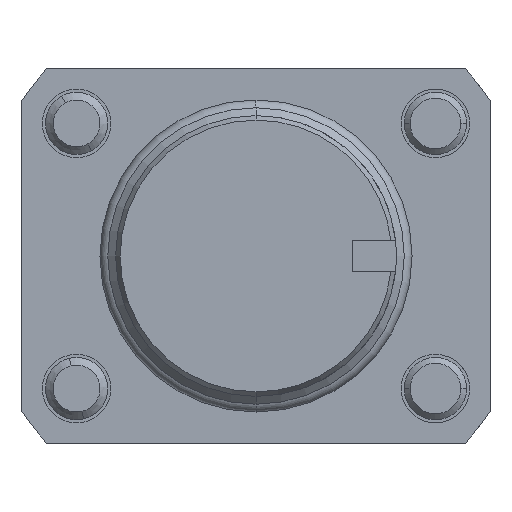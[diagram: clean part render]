
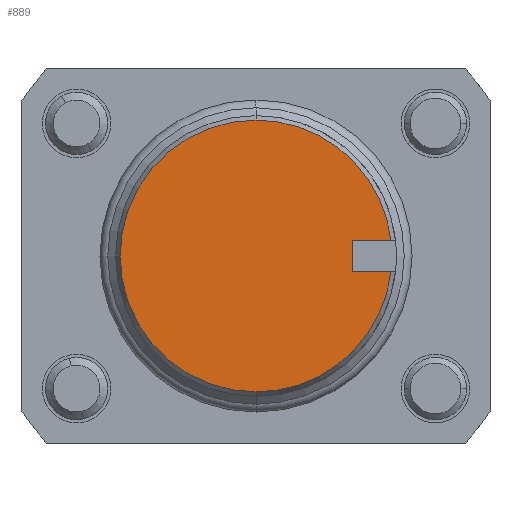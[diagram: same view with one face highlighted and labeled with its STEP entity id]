
A CAD part, front view. The second image highlights one B-rep face of the part: STEP entity #889.
In plain terms, the highlighted planar face has unit normal (0, -1, 0).
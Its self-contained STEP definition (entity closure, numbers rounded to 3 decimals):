
#521 = VECTOR ( 'NONE', #4293, 1000. ) ;
#528 = CIRCLE ( 'NONE', #3414, 8.711 ) ;
#556 = EDGE_CURVE ( 'NONE', #4571, #635, #528, .T. ) ;
#635 = VERTEX_POINT ( 'NONE', #5774 ) ;
#737 = CARTESIAN_POINT ( 'NONE',  ( 0., 0., 8.711 ) ) ;
#771 = LINE ( 'NONE', #3440, #6099 ) ;
#827 = LINE ( 'NONE', #3982, #521 ) ;
#889 = ADVANCED_FACE ( 'NONE', ( #1971 ), #2729, .F. ) ;
#1113 = CARTESIAN_POINT ( 'NONE',  ( 6.198, 0., 1. ) ) ;
#1167 = CARTESIAN_POINT ( 'NONE',  ( 0., 0., 0. ) ) ;
#1423 = AXIS2_PLACEMENT_3D ( 'NONE', #1167, #5340, #6202 ) ;
#1693 = EDGE_CURVE ( 'NONE', #2779, #4571, #5884, .T. ) ;
#1971 = FACE_OUTER_BOUND ( 'NONE', #4415, .T. ) ;
#2114 = EDGE_CURVE ( 'NONE', #6298, #3284, #3813, .T. ) ;
#2300 = ORIENTED_EDGE ( 'NONE', *, *, #556, .T. ) ;
#2316 = CARTESIAN_POINT ( 'NONE',  ( 0., 0., 0. ) ) ;
#2351 = CARTESIAN_POINT ( 'NONE',  ( 0., 0., 0. ) ) ;
#2557 = ORIENTED_EDGE ( 'NONE', *, *, #2114, .F. ) ;
#2691 = ORIENTED_EDGE ( 'NONE', *, *, #5368, .F. ) ;
#2729 = PLANE ( 'NONE',  #1423 ) ;
#2779 = VERTEX_POINT ( 'NONE', #737 ) ;
#2907 = CIRCLE ( 'NONE', #4681, 8.711 ) ;
#3030 = VECTOR ( 'NONE', #6523, 1000. ) ;
#3284 = VERTEX_POINT ( 'NONE', #1113 ) ;
#3289 = DIRECTION ( 'NONE',  ( 0., 0., 1. ) ) ;
#3344 = DIRECTION ( 'NONE',  ( 0., -1., 0. ) ) ;
#3392 = ORIENTED_EDGE ( 'NONE', *, *, #5536, .T. ) ;
#3414 = AXIS2_PLACEMENT_3D ( 'NONE', #2351, #5764, #5678 ) ;
#3440 = CARTESIAN_POINT ( 'NONE',  ( 10.348, 0., -1. ) ) ;
#3813 = LINE ( 'NONE', #5803, #3030 ) ;
#3947 = DIRECTION ( 'NONE',  ( 1., 0., 0. ) ) ;
#3982 = CARTESIAN_POINT ( 'NONE',  ( 6.198, 0., 1. ) ) ;
#3991 = CARTESIAN_POINT ( 'NONE',  ( 8.654, 0., 1. ) ) ;
#4252 = EDGE_CURVE ( 'NONE', #3284, #5908, #827, .T. ) ;
#4293 = DIRECTION ( 'NONE',  ( 0., 0., -1. ) ) ;
#4345 = DIRECTION ( 'NONE',  ( 0., 0., 1. ) ) ;
#4415 = EDGE_LOOP ( 'NONE', ( #6534, #2557, #3392, #4947, #2300, #2691 ) ) ;
#4571 = VERTEX_POINT ( 'NONE', #5800 ) ;
#4681 = AXIS2_PLACEMENT_3D ( 'NONE', #2316, #3344, #4345 ) ;
#4947 = ORIENTED_EDGE ( 'NONE', *, *, #1693, .T. ) ;
#5340 = DIRECTION ( 'NONE',  ( 0., 1., 0. ) ) ;
#5342 = AXIS2_PLACEMENT_3D ( 'NONE', #5804, #5496, #3289 ) ;
#5368 = EDGE_CURVE ( 'NONE', #5908, #635, #771, .T. ) ;
#5496 = DIRECTION ( 'NONE',  ( 0., -1., 0. ) ) ;
#5536 = EDGE_CURVE ( 'NONE', #6298, #2779, #2907, .T. ) ;
#5678 = DIRECTION ( 'NONE',  ( 0., 0., 1. ) ) ;
#5764 = DIRECTION ( 'NONE',  ( 0., -1., 0. ) ) ;
#5774 = CARTESIAN_POINT ( 'NONE',  ( 8.654, 0., -1. ) ) ;
#5800 = CARTESIAN_POINT ( 'NONE',  ( 0., 0., -8.711 ) ) ;
#5803 = CARTESIAN_POINT ( 'NONE',  ( 10.348, 0., 1. ) ) ;
#5804 = CARTESIAN_POINT ( 'NONE',  ( 0., 0., 0. ) ) ;
#5884 = CIRCLE ( 'NONE', #5342, 8.711 ) ;
#5908 = VERTEX_POINT ( 'NONE', #6646 ) ;
#6099 = VECTOR ( 'NONE', #3947, 1000. ) ;
#6202 = DIRECTION ( 'NONE',  ( 0., 0., 1. ) ) ;
#6298 = VERTEX_POINT ( 'NONE', #3991 ) ;
#6523 = DIRECTION ( 'NONE',  ( -1., 0., 0. ) ) ;
#6534 = ORIENTED_EDGE ( 'NONE', *, *, #4252, .F. ) ;
#6646 = CARTESIAN_POINT ( 'NONE',  ( 6.198, 0., -1. ) ) ;
